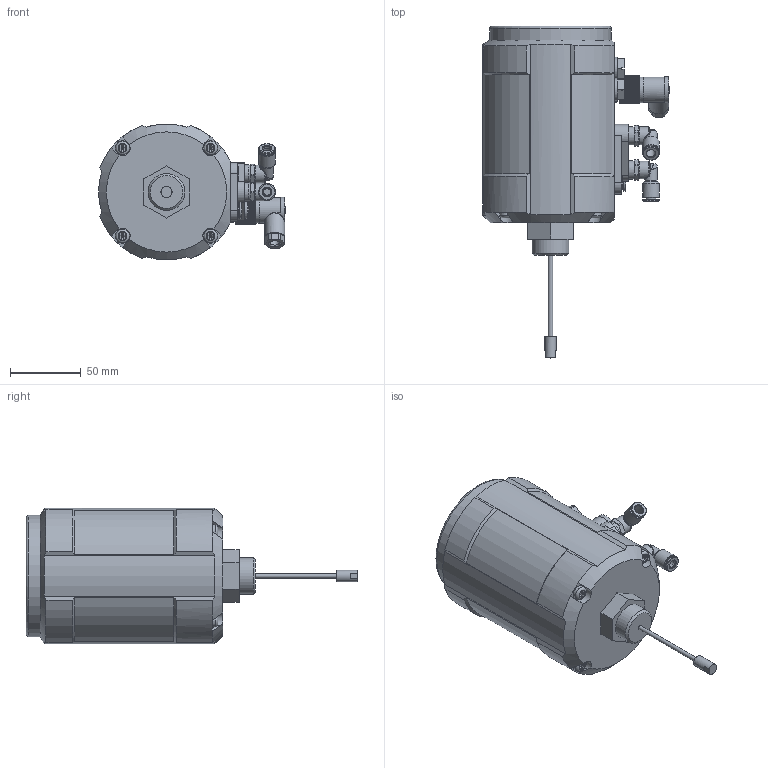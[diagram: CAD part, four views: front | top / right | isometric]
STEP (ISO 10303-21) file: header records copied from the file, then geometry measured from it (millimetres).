
FILE_DESCRIPTION(('STEP AP242'), '1');
FILE_NAME('ÝÈÏ-1500 Ýëåêòðîïíåâìàòè÷åñêèé ïîçèöèîíåð DN.ru', '2026-04-22T18:02:28', ('R2D2'), (''), 'C3D Converter', 'C3D Toolkit', '');
FILE_SCHEMA(('AP242_MANAGED_MODEL_BASED_3D_ENGINEERING_MIM_LF { 1 0 10303 442 1 1 4 }'));
Length unit declared in the file: millimetre
Products named in the file (1): ЭИП-1500
Bounding box: 132 x 234.5 x 96 mm (x, y, z)
Volume: 6445.5 mm3; surface area: 77061.6 mm2
Topology: 7 solids, 144 shells, 3279 faces, 8961 edges, 5827 vertices
Faces by surface type: plane 2115, cone 546, cylinder 535, bspline 58, torus 22, sphere 3
Full cylindrical faces by diameter (mm): 0.8 x1, 1 x4, 3 x1, 5 x2, 6 x5, 6.15 x3, 7 x1, 7.3 x3, 8 x1, 8.3 x2, 9 x2, 9.6 x2, 10 x4, 10.106 x1, 10.6 x1, 10.939 x2, 11.5 x3, 11.81 x2, 12 x7, 12.5 x2, 12.9 x2, 13 x1, 13.939 x1, 14 x1, 15 x1, 16 x3, 18 x2, 26 x1, 86 x1
Entity records: 154120 total; most frequent: CARTESIAN_POINT 50507, ORIENTED_EDGE 17394, DIRECTION 14840, EDGE_CURVE 8705, VERTEX_POINT 5767, LINE 5530, VECTOR 5530, AXIS2_PLACEMENT_3D 4655
